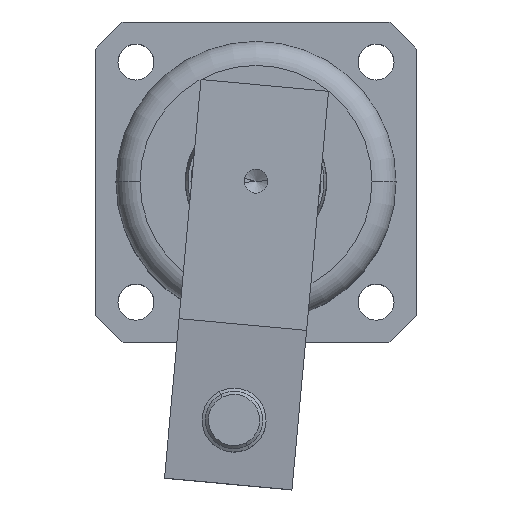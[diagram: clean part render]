
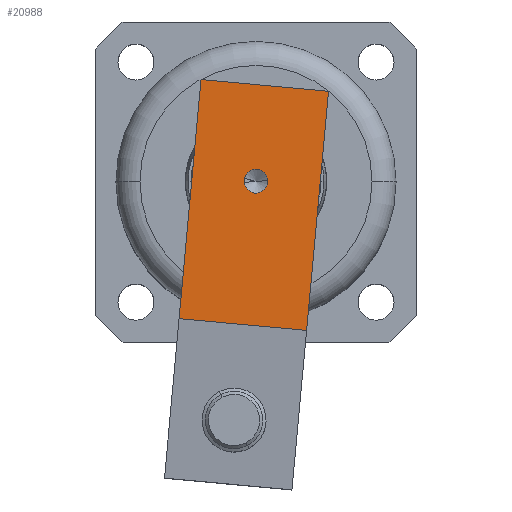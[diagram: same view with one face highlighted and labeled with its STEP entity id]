
A CAD part, top view. The second image highlights one B-rep face of the part: STEP entity #20988.
In plain terms, the highlighted planar face has unit normal (0, 0, 1) as drawn and (0, 1, 0) by its records, which use the part's own axes.
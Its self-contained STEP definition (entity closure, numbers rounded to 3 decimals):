
#178 = DIRECTION ( 'NONE',  ( 0., 0., -1. ) ) ;
#285 = CARTESIAN_POINT ( 'NONE',  ( 0., 16., 16. ) ) ;
#506 = EDGE_CURVE ( 'NONE', #9543, #13414, #20748, .T. ) ;
#1476 = DIRECTION ( 'NONE',  ( -1., 0., 0. ) ) ;
#1628 = CARTESIAN_POINT ( 'NONE',  ( 0., 16., 16. ) ) ;
#2038 = CARTESIAN_POINT ( 'NONE',  ( 0., 16., 16. ) ) ;
#2282 = LINE ( 'NONE', #285, #7690 ) ;
#3285 = ORIENTED_EDGE ( 'NONE', *, *, #13168, .T. ) ;
#5296 = DIRECTION ( 'NONE',  ( 0., 0., -1. ) ) ;
#6415 = EDGE_CURVE ( 'NONE', #22556, #10961, #2282, .T. ) ;
#6517 = VERTEX_POINT ( 'NONE', #16635 ) ;
#6632 = CARTESIAN_POINT ( 'NONE',  ( 0., 16., 0. ) ) ;
#6725 = CARTESIAN_POINT ( 'NONE',  ( 30., 16., 16. ) ) ;
#6795 = CARTESIAN_POINT ( 'NONE',  ( 12., 16., 6.5 ) ) ;
#7690 = VECTOR ( 'NONE', #17596, 1000. ) ;
#7725 = EDGE_LOOP ( 'NONE', ( #3285, #20763, #21037, #12511 ) ) ;
#7847 = CARTESIAN_POINT ( 'NONE',  ( 12., 16., 8. ) ) ;
#8006 = VECTOR ( 'NONE', #1476, 1000. ) ;
#8145 = FACE_BOUND ( 'NONE', #20987, .T. ) ;
#9172 = LINE ( 'NONE', #2038, #11569 ) ;
#9530 = DIRECTION ( 'NONE',  ( 0., 0., 1. ) ) ;
#9543 = VERTEX_POINT ( 'NONE', #6795 ) ;
#10022 = CARTESIAN_POINT ( 'NONE',  ( 12., 16., 8. ) ) ;
#10178 = DIRECTION ( 'NONE',  ( 0., 0., 1. ) ) ;
#10494 = PLANE ( 'NONE',  #12048 ) ;
#10539 = CARTESIAN_POINT ( 'NONE',  ( 30., 16., 16. ) ) ;
#10961 = VERTEX_POINT ( 'NONE', #11654 ) ;
#11569 = VECTOR ( 'NONE', #14143, 1000. ) ;
#11654 = CARTESIAN_POINT ( 'NONE',  ( 0., 16., 16. ) ) ;
#12048 = AXIS2_PLACEMENT_3D ( 'NONE', #1628, #13822, #178 ) ;
#12511 = ORIENTED_EDGE ( 'NONE', *, *, #18741, .T. ) ;
#12822 = CARTESIAN_POINT ( 'NONE',  ( 30., 16., 0. ) ) ;
#13002 = AXIS2_PLACEMENT_3D ( 'NONE', #10022, #18608, #10178 ) ;
#13087 = DIRECTION ( 'NONE',  ( 0., 1., 0. ) ) ;
#13144 = AXIS2_PLACEMENT_3D ( 'NONE', #7847, #13087, #9530 ) ;
#13168 = EDGE_CURVE ( 'NONE', #17421, #6517, #14251, .T. ) ;
#13414 = VERTEX_POINT ( 'NONE', #17783 ) ;
#13453 = ORIENTED_EDGE ( 'NONE', *, *, #506, .F. ) ;
#13554 = ORIENTED_EDGE ( 'NONE', *, *, #16585, .F. ) ;
#13822 = DIRECTION ( 'NONE',  ( 0., -1., 0. ) ) ;
#14079 = FACE_OUTER_BOUND ( 'NONE', #7725, .T. ) ;
#14143 = DIRECTION ( 'NONE',  ( 0., 0., -1. ) ) ;
#14251 = LINE ( 'NONE', #6632, #8006 ) ;
#14572 = VECTOR ( 'NONE', #5296, 1000. ) ;
#14657 = CIRCLE ( 'NONE', #13144, 1.5 ) ;
#16585 = EDGE_CURVE ( 'NONE', #13414, #9543, #14657, .T. ) ;
#16635 = CARTESIAN_POINT ( 'NONE',  ( 0., 16., 0. ) ) ;
#17421 = VERTEX_POINT ( 'NONE', #12822 ) ;
#17596 = DIRECTION ( 'NONE',  ( -1., 0., 0. ) ) ;
#17783 = CARTESIAN_POINT ( 'NONE',  ( 12., 16., 9.5 ) ) ;
#18438 = EDGE_CURVE ( 'NONE', #10961, #6517, #9172, .T. ) ;
#18608 = DIRECTION ( 'NONE',  ( 0., 1., 0. ) ) ;
#18741 = EDGE_CURVE ( 'NONE', #22556, #17421, #20028, .T. ) ;
#20028 = LINE ( 'NONE', #6725, #14572 ) ;
#20748 = CIRCLE ( 'NONE', #13002, 1.5 ) ;
#20763 = ORIENTED_EDGE ( 'NONE', *, *, #18438, .F. ) ;
#20987 = EDGE_LOOP ( 'NONE', ( #13554, #13453 ) ) ;
#20988 = ADVANCED_FACE ( 'NONE', ( #8145, #14079 ), #10494, .F. ) ;
#21037 = ORIENTED_EDGE ( 'NONE', *, *, #6415, .F. ) ;
#22556 = VERTEX_POINT ( 'NONE', #10539 ) ;
